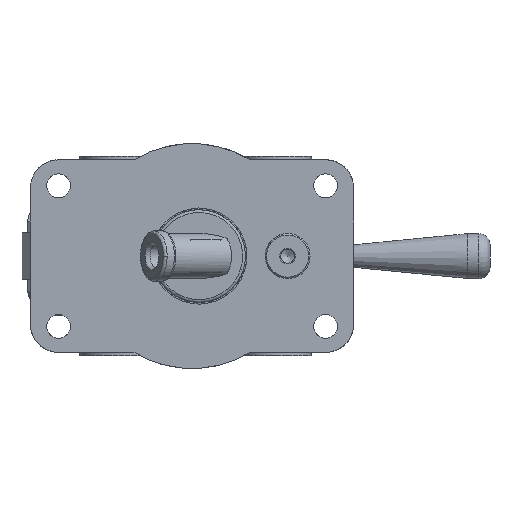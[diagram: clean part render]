
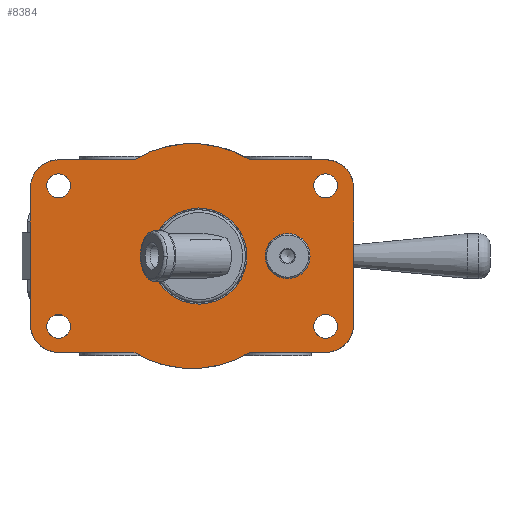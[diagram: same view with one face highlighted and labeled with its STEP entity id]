
A CAD part, front view. The second image highlights one B-rep face of the part: STEP entity #8384.
In plain terms, the highlighted planar face has unit normal (0, -1, 0).
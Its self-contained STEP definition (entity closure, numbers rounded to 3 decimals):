
#891=LINE('',#20175,#1298);
#894=LINE('',#20183,#1301);
#897=LINE('',#20191,#1304);
#900=LINE('',#20199,#1307);
#903=LINE('',#20207,#1310);
#904=LINE('',#20233,#1311);
#1298=VECTOR('',#13984,1000.);
#1301=VECTOR('',#13993,1000.);
#1304=VECTOR('',#14002,1000.);
#1307=VECTOR('',#14011,1000.);
#1310=VECTOR('',#14020,1000.);
#1311=VECTOR('',#14023,1000.);
#1553=PLANE('',#12092);
#3497=ORIENTED_EDGE('',*,*,#4845,.T.);
#3498=ORIENTED_EDGE('',*,*,#4844,.F.);
#3499=ORIENTED_EDGE('',*,*,#4800,.F.);
#3500=ORIENTED_EDGE('',*,*,#4839,.F.);
#3501=ORIENTED_EDGE('',*,*,#4838,.F.);
#3502=ORIENTED_EDGE('',*,*,#4835,.F.);
#3503=ORIENTED_EDGE('',*,*,#4833,.F.);
#3504=ORIENTED_EDGE('',*,*,#4831,.F.);
#3505=ORIENTED_EDGE('',*,*,#4830,.F.);
#3506=ORIENTED_EDGE('',*,*,#4827,.F.);
#3507=ORIENTED_EDGE('',*,*,#4825,.F.);
#3508=ORIENTED_EDGE('',*,*,#4823,.F.);
#3509=ORIENTED_EDGE('',*,*,#4821,.F.);
#3510=ORIENTED_EDGE('',*,*,#4819,.F.);
#3511=ORIENTED_EDGE('',*,*,#4818,.F.);
#3512=ORIENTED_EDGE('',*,*,#4817,.F.);
#3513=ORIENTED_EDGE('',*,*,#4816,.F.);
#3514=ORIENTED_EDGE('',*,*,#4815,.F.);
#4800=EDGE_CURVE('',#5704,#5705,#6144,.T.);
#4815=EDGE_CURVE('',#5714,#5714,#6145,.T.);
#4816=EDGE_CURVE('',#5715,#5715,#6146,.T.);
#4817=EDGE_CURVE('',#5716,#5716,#6147,.T.);
#4818=EDGE_CURVE('',#5717,#5717,#6148,.T.);
#4819=EDGE_CURVE('',#5718,#5718,#6149,.T.);
#4821=EDGE_CURVE('',#5719,#5720,#6150,.T.);
#4823=EDGE_CURVE('',#5720,#5721,#891,.T.);
#4825=EDGE_CURVE('',#5721,#5722,#6151,.T.);
#4827=EDGE_CURVE('',#5722,#5723,#894,.T.);
#4830=EDGE_CURVE('',#5723,#5724,#6152,.T.);
#4831=EDGE_CURVE('',#5724,#5725,#897,.T.);
#4833=EDGE_CURVE('',#5725,#5726,#6153,.T.);
#4835=EDGE_CURVE('',#5726,#5727,#900,.T.);
#4838=EDGE_CURVE('',#5727,#5728,#6154,.T.);
#4839=EDGE_CURVE('',#5728,#5704,#903,.T.);
#4844=EDGE_CURVE('',#5705,#5719,#904,.T.);
#4845=EDGE_CURVE('',#5733,#5733,#6155,.T.);
#5704=VERTEX_POINT('',#20089);
#5705=VERTEX_POINT('',#20091);
#5714=VERTEX_POINT('',#20155);
#5715=VERTEX_POINT('',#20158);
#5716=VERTEX_POINT('',#20161);
#5717=VERTEX_POINT('',#20164);
#5718=VERTEX_POINT('',#20167);
#5719=VERTEX_POINT('',#20170);
#5720=VERTEX_POINT('',#20172);
#5721=VERTEX_POINT('',#20176);
#5722=VERTEX_POINT('',#20180);
#5723=VERTEX_POINT('',#20184);
#5724=VERTEX_POINT('',#20188);
#5725=VERTEX_POINT('',#20192);
#5726=VERTEX_POINT('',#20196);
#5727=VERTEX_POINT('',#20200);
#5728=VERTEX_POINT('',#20204);
#5733=VERTEX_POINT('',#20236);
#6144=CIRCLE('',#12060,10.);
#6145=CIRCLE('',#12067,4.25);
#6146=CIRCLE('',#12069,4.25);
#6147=CIRCLE('',#12071,4.25);
#6148=CIRCLE('',#12073,4.25);
#6149=CIRCLE('',#12075,8.);
#6150=CIRCLE('',#12077,40.);
#6151=CIRCLE('',#12080,10.);
#6152=CIRCLE('',#12083,10.);
#6153=CIRCLE('',#12086,40.);
#6154=CIRCLE('',#12089,10.);
#6155=CIRCLE('',#12093,16.983);
#6856=EDGE_LOOP('',(#3497));
#6857=EDGE_LOOP('',(#3498,#3499,#3500,#3501,#3502,#3503,#3504,#3505,#3506,
#3507,#3508,#3509));
#6858=EDGE_LOOP('',(#3510));
#6859=EDGE_LOOP('',(#3511));
#6860=EDGE_LOOP('',(#3512));
#6861=EDGE_LOOP('',(#3513));
#6862=EDGE_LOOP('',(#3514));
#7646=FACE_BOUND('',#6856,.T.);
#7647=FACE_BOUND('',#6857,.T.);
#7648=FACE_BOUND('',#6858,.T.);
#7649=FACE_BOUND('',#6859,.T.);
#7650=FACE_BOUND('',#6860,.T.);
#7651=FACE_BOUND('',#6861,.T.);
#7652=FACE_BOUND('',#6862,.T.);
#8384=ADVANCED_FACE('',(#7646,#7647,#7648,#7649,#7650,#7651,#7652),#1553,
 .F.);
#12060=AXIS2_PLACEMENT_3D('',#20090,#13937,#13938);
#12067=AXIS2_PLACEMENT_3D('',#20154,#13958,#13959);
#12069=AXIS2_PLACEMENT_3D('',#20157,#13962,#13963);
#12071=AXIS2_PLACEMENT_3D('',#20160,#13966,#13967);
#12073=AXIS2_PLACEMENT_3D('',#20163,#13970,#13971);
#12075=AXIS2_PLACEMENT_3D('',#20166,#13974,#13975);
#12077=AXIS2_PLACEMENT_3D('',#20171,#13979,#13980);
#12080=AXIS2_PLACEMENT_3D('',#20179,#13988,#13989);
#12083=AXIS2_PLACEMENT_3D('',#20189,#13998,#13999);
#12086=AXIS2_PLACEMENT_3D('',#20195,#14006,#14007);
#12089=AXIS2_PLACEMENT_3D('',#20205,#14016,#14017);
#12092=AXIS2_PLACEMENT_3D('',#20234,#14024,#14025);
#12093=AXIS2_PLACEMENT_3D('',#20235,#14026,#14027);
#13937=DIRECTION('',(0.,1.,0.));
#13938=DIRECTION('',(-1.,0.,0.));
#13958=DIRECTION('',(0.,-1.,0.));
#13959=DIRECTION('',(-1.,0.,0.));
#13962=DIRECTION('',(0.,-1.,0.));
#13963=DIRECTION('',(-1.,0.,0.));
#13966=DIRECTION('',(0.,-1.,0.));
#13967=DIRECTION('',(-1.,0.,0.));
#13970=DIRECTION('',(0.,-1.,0.));
#13971=DIRECTION('',(-1.,0.,0.));
#13974=DIRECTION('',(0.,-1.,0.));
#13975=DIRECTION('',(0.,0.,-1.));
#13979=DIRECTION('',(0.,1.,0.));
#13980=DIRECTION('',(-1.,0.,0.));
#13984=DIRECTION('',(-1.,0.,0.));
#13988=DIRECTION('',(0.,1.,0.));
#13989=DIRECTION('',(-1.,0.,0.));
#13993=DIRECTION('',(0.,0.,1.));
#13998=DIRECTION('',(0.,1.,0.));
#13999=DIRECTION('',(-1.,0.,0.));
#14002=DIRECTION('',(1.,0.,0.));
#14006=DIRECTION('',(0.,1.,0.));
#14007=DIRECTION('',(-1.,0.,0.));
#14011=DIRECTION('',(1.,0.,0.));
#14016=DIRECTION('',(0.,1.,0.));
#14017=DIRECTION('',(-1.,0.,0.));
#14020=DIRECTION('',(0.,0.,-1.));
#14023=DIRECTION('',(-1.,0.,0.));
#14024=DIRECTION('',(0.,1.,0.));
#14025=DIRECTION('',(0.,0.,1.));
#14026=DIRECTION('',(0.,1.,0.));
#14027=DIRECTION('',(0.,0.,1.));
#20089=CARTESIAN_POINT('',(34.108,-53.452,-24.25));
#20090=CARTESIAN_POINT('',(24.108,-53.452,-24.25));
#20091=CARTESIAN_POINT('',(24.108,-53.452,-34.25));
#20154=CARTESIAN_POINT('',(24.108,-53.452,25.));
#20155=CARTESIAN_POINT('',(19.858,-53.452,25.));
#20157=CARTESIAN_POINT('',(24.108,-53.452,-25.));
#20158=CARTESIAN_POINT('',(19.858,-53.452,-25.));
#20160=CARTESIAN_POINT('',(-70.892,-53.452,-25.));
#20161=CARTESIAN_POINT('',(-75.142,-53.452,-25.));
#20163=CARTESIAN_POINT('',(-70.892,-53.452,25.));
#20164=CARTESIAN_POINT('',(-75.142,-53.452,25.));
#20166=CARTESIAN_POINT('',(10.608,-53.452,0.));
#20167=CARTESIAN_POINT('',(10.608,-53.452,-8.));
#20170=CARTESIAN_POINT('',(-2.729,-53.452,-34.25));
#20171=CARTESIAN_POINT('',(-23.392,-53.452,0.));
#20172=CARTESIAN_POINT('',(-44.054,-53.452,-34.25));
#20175=CARTESIAN_POINT('',(-23.392,-53.452,-34.25));
#20176=CARTESIAN_POINT('',(-70.892,-53.452,-34.25));
#20179=CARTESIAN_POINT('',(-70.892,-53.452,-24.25));
#20180=CARTESIAN_POINT('',(-80.892,-53.452,-24.25));
#20183=CARTESIAN_POINT('',(-80.892,-53.452,0.));
#20184=CARTESIAN_POINT('',(-80.892,-53.452,24.25));
#20188=CARTESIAN_POINT('',(-70.892,-53.452,34.25));
#20189=CARTESIAN_POINT('',(-70.892,-53.452,24.25));
#20191=CARTESIAN_POINT('',(-23.392,-53.452,34.25));
#20192=CARTESIAN_POINT('',(-44.054,-53.452,34.25));
#20195=CARTESIAN_POINT('',(-23.392,-53.452,0.));
#20196=CARTESIAN_POINT('',(-2.729,-53.452,34.25));
#20199=CARTESIAN_POINT('',(-23.392,-53.452,34.25));
#20200=CARTESIAN_POINT('',(24.108,-53.452,34.25));
#20204=CARTESIAN_POINT('',(34.108,-53.452,24.25));
#20205=CARTESIAN_POINT('',(24.108,-53.452,24.25));
#20207=CARTESIAN_POINT('',(34.108,-53.452,0.));
#20233=CARTESIAN_POINT('',(-23.392,-53.452,-34.25));
#20234=CARTESIAN_POINT('',(-80.892,-53.452,-40.48));
#20235=CARTESIAN_POINT('',(-20.892,-53.452,0.));
#20236=CARTESIAN_POINT('',(-20.892,-53.452,16.983));
